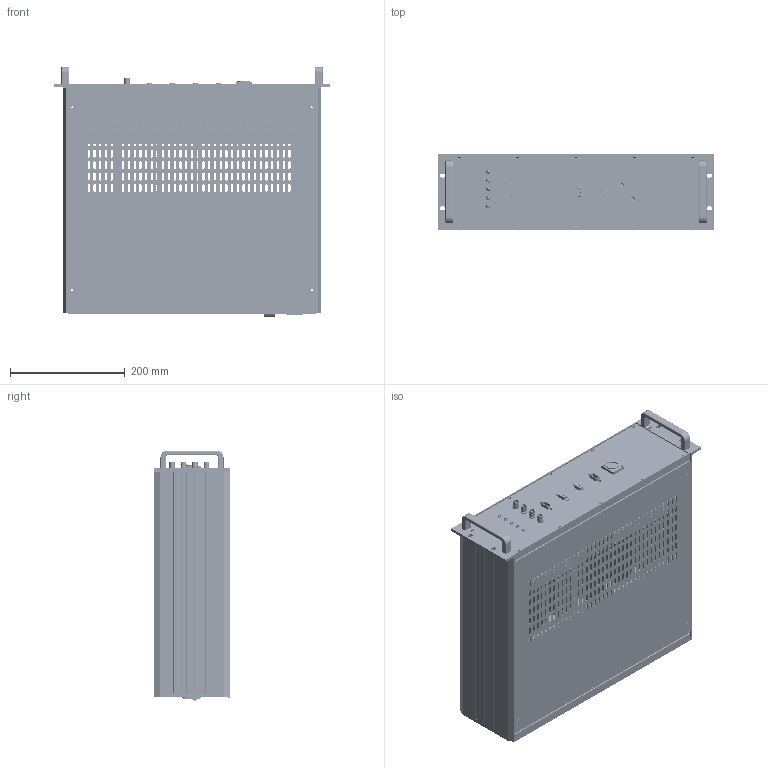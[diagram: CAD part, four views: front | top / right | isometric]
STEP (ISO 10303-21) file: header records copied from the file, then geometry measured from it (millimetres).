
FILE_DESCRIPTION (( 'STEP AP203' ), '1' );
FILE_NAME ('E00.D5K01.STEP', '2025-07-18T02:11:12', ( 'China' ), ( 'Home' ), 'SwSTEP 2.0', 'SolidWorks 2016', '' );
FILE_SCHEMA (( 'CONFIG_CONTROL_DESIGN' ));
Products named in the file (1): E00.D5K01
Bounding box: 481.8 x 134 x 437.15 mm (x, y, z)
Surface area: 1445481.4 mm2 (no closed solid volume)
Topology: 0 solids, 399 shells, 3527 faces, 15861 edges, 12574 vertices
Faces by surface type: plane 2067, cylinder 1307, cone 80, torus 26, sphere 24, bspline 23
Entity records: 172588 total; most frequent: CARTESIAN_POINT 41677, DIRECTION 25889, ORIENTED_EDGE 23647, EDGE_CURVE 15813, VERTEX_POINT 12550, VECTOR 11307, LINE 11307, AXIS2_PLACEMENT_3D 7291
